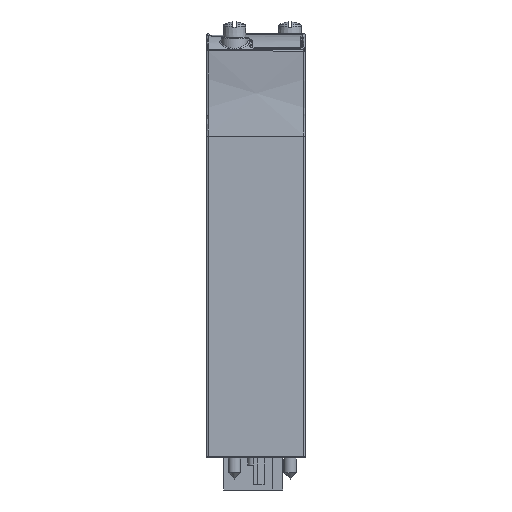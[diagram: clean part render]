
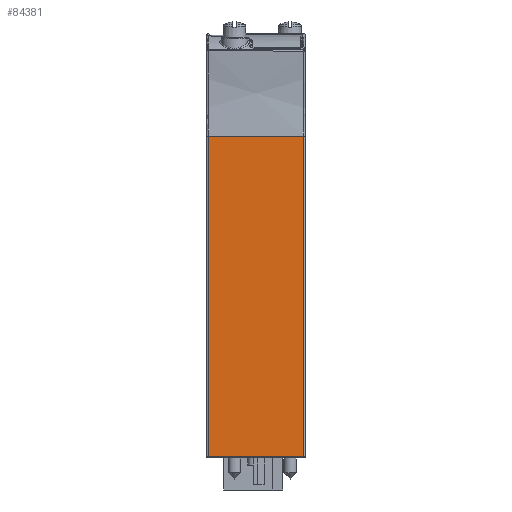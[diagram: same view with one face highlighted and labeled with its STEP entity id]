
A CAD part, front view. The second image highlights one B-rep face of the part: STEP entity #84381.
In plain terms, the highlighted planar face has unit normal (-0.009, -1, 0).
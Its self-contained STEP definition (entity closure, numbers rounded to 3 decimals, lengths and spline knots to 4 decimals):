
#5541=DIRECTION('',(0.,0.,1.));
#5542=VECTOR('',#5541,2.502);
#5543=CARTESIAN_POINT('',(0.0099,-2.0438,0.01));
#5544=LINE('',#5543,#5542);
#26226=CARTESIAN_POINT('',(0.0099,-2.0438,
2.512));
#26227=CARTESIAN_POINT('',(0.0933,-2.0445,
2.512));
#26228=CARTESIAN_POINT('',(0.26,-2.046,
2.5122));
#26229=CARTESIAN_POINT('',(0.5096,-2.0482,
2.5123));
#26230=CARTESIAN_POINT('',(0.6759,-2.0496,
2.5125));
#26231=CARTESIAN_POINT('',(0.7589,-2.0503,
2.5125));
#26233=DIRECTION('',(0.,0.,-1.));
#26234=VECTOR('',#26233,2.5025);
#26235=CARTESIAN_POINT('',(0.7589,-2.0503,
2.5125));
#26236=LINE('',#26235,#26234);
#26260=DIRECTION('',(-1.,0.009,0.));
#26261=VECTOR('',#26260,0.749);
#26262=CARTESIAN_POINT('',(0.7589,-2.0503,0.01));
#26263=LINE('',#26262,#26261);
#45691=CARTESIAN_POINT('',(0.0099,-2.0438,0.01));
#45692=CARTESIAN_POINT('',(0.0099,-2.0438,
2.512));
#45693=VERTEX_POINT('',#45691);
#45694=VERTEX_POINT('',#45692);
#45699=CARTESIAN_POINT('',(0.7589,-2.0503,
2.5125));
#45700=CARTESIAN_POINT('',(0.7589,-2.0503,0.01));
#45701=VERTEX_POINT('',#45699);
#45702=VERTEX_POINT('',#45700);
#84368=CARTESIAN_POINT('',(0.719,-2.05,4.34));
#84369=DIRECTION('',(-0.009,-1.,0.));
#84370=DIRECTION('',(0.,0.,-1.));
#84371=AXIS2_PLACEMENT_3D('',#84368,#84369,#84370);
#84372=PLANE('',#84371);
#84373=ORIENTED_EDGE('',*,*,#59079,.T.);
#84374=ORIENTED_EDGE('',*,*,#60627,.T.);
#84376=ORIENTED_EDGE('',*,*,#84375,.T.);
#84378=ORIENTED_EDGE('',*,*,#84377,.T.);
#84379=EDGE_LOOP('',(#84373,#84374,#84376,#84378));
#84380=FACE_OUTER_BOUND('',#84379,.F.);
#84381=ADVANCED_FACE('',(#84380),#84372,.T.);
#26232=B_SPLINE_CURVE_WITH_KNOTS('',3,(#26226,#26227,#26228,#26229,#26230,
#26231),.UNSPECIFIED.,.F.,.F.,(4,1,1,4),(0.,0.3333,
0.6667,1.),.UNSPECIFIED.);
#59079=EDGE_CURVE('',#45693,#45694,#5544,.T.);
#60627=EDGE_CURVE('',#45694,#45701,#26232,.T.);
#84375=EDGE_CURVE('',#45701,#45702,#26236,.T.);
#84377=EDGE_CURVE('',#45702,#45693,#26263,.T.);
